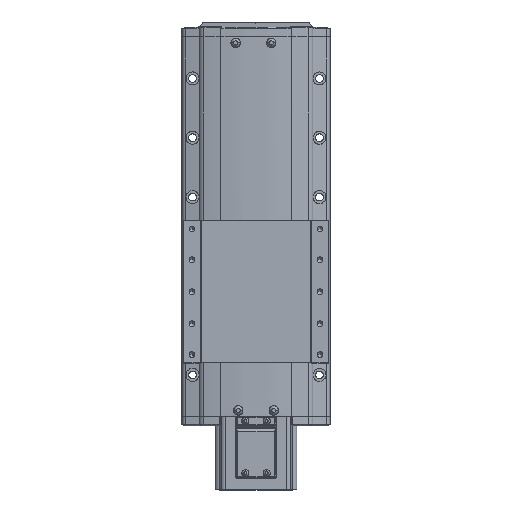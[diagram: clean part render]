
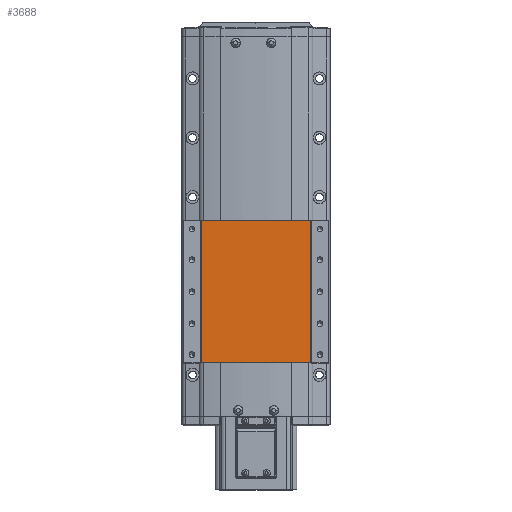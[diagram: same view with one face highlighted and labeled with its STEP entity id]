
A CAD part, top view. The second image highlights one B-rep face of the part: STEP entity #3688.
In plain terms, the highlighted planar face has unit normal (0, 0, 1).
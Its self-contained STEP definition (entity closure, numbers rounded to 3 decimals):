
#3688=ADVANCED_FACE('',(#10163),#10164,.F.);
#10163=FACE_OUTER_BOUND('',#20072,.T.);
#10164=PLANE('',#20073);
#20072=EDGE_LOOP('',(#32609,#32610,#32611,#32612));
#20073=AXIS2_PLACEMENT_3D('',#32613,#32614,#32615);
#32609=ORIENTED_EDGE('',*,*,#59946,.F.);
#32610=ORIENTED_EDGE('',*,*,#59947,.F.);
#32611=ORIENTED_EDGE('',*,*,#59948,.F.);
#32612=ORIENTED_EDGE('',*,*,#59949,.T.);
#32613=CARTESIAN_POINT('',(-300.,17.222,36.5));
#32614=DIRECTION('',(0.,0.,-1.0));
#32615=DIRECTION('',(-1.0,0.,0.));
#59946=EDGE_CURVE('',#71410,#71411,#71412,.T.);
#59947=EDGE_CURVE('',#71413,#71410,#71414,.T.);
#59948=EDGE_CURVE('',#71415,#71413,#71416,.T.);
#59949=EDGE_CURVE('',#71415,#71411,#71417,.T.);
#71410=VERTEX_POINT('',#87751);
#71411=VERTEX_POINT('',#87752);
#71412=LINE('',#87753,#87754);
#71413=VERTEX_POINT('',#87755);
#71414=LINE('',#87756,#87757);
#71415=VERTEX_POINT('',#87758);
#71416=LINE('',#87759,#87760);
#71417=LINE('',#87761,#87762);
#87751=CARTESIAN_POINT('',(-346.376,137.222,36.5));
#87752=CARTESIAN_POINT('',(-253.624,137.222,36.5));
#87753=CARTESIAN_POINT('',(-253.624,137.222,36.5));
#87754=VECTOR('',#109806,10.0);
#87755=CARTESIAN_POINT('',(-346.376,17.222,36.5));
#87756=CARTESIAN_POINT('',(-346.376,17.222,36.5));
#87757=VECTOR('',#109807,10.0);
#87758=CARTESIAN_POINT('',(-253.624,17.222,36.5));
#87759=CARTESIAN_POINT('',(-253.624,17.222,36.5));
#87760=VECTOR('',#109808,10.0);
#87761=CARTESIAN_POINT('',(-253.624,17.222,36.5));
#87762=VECTOR('',#109809,10.0);
#109806=DIRECTION('',(1.0,0.,0.));
#109807=DIRECTION('',(0.,1.0,0.));
#109808=DIRECTION('',(-1.0,0.,0.));
#109809=DIRECTION('',(0.,1.0,0.));
